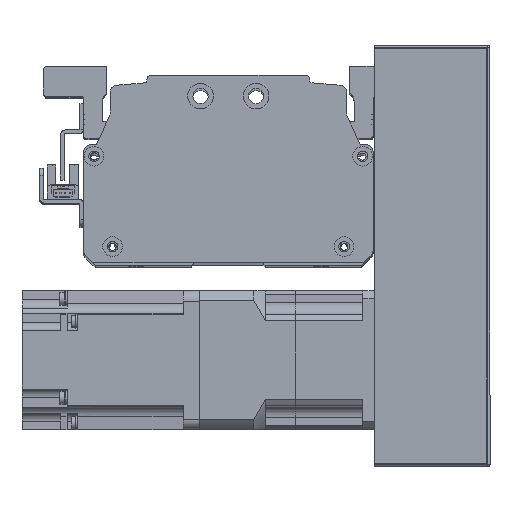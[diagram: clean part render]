
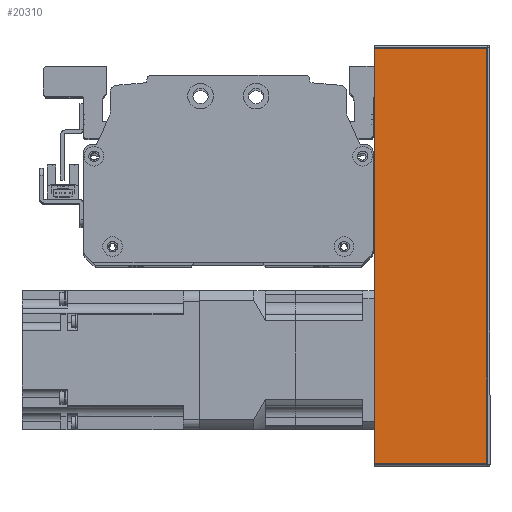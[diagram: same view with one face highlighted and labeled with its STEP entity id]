
A CAD part, top view. The second image highlights one B-rep face of the part: STEP entity #20310.
In plain terms, the highlighted planar face has unit normal (0, 0, 1) as drawn and (0, 1, 0) by its records, which use the part's own axes.
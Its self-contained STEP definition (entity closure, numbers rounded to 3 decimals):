
#568=PLANE('',#22277);
#1775=LINE('',#33039,#3399);
#1789=LINE('',#33084,#3413);
#1793=LINE('',#33106,#3417);
#1812=LINE('',#33169,#3436);
#3399=VECTOR('',#26822,10.);
#3413=VECTOR('',#26870,10.);
#3417=VECTOR('',#26904,10.);
#3436=VECTOR('',#26987,10.);
#5758=FACE_OUTER_BOUND('',#7174,.T.);
#7174=EDGE_LOOP('',(#16960,#16961,#16962,#16963));
#9982=VERTEX_POINT('',#33036);
#9983=VERTEX_POINT('',#33038);
#9996=VERTEX_POINT('',#33079);
#9997=VERTEX_POINT('',#33082);
#12403=EDGE_CURVE('',#9983,#9982,#1775,.T.);
#12427=EDGE_CURVE('',#9996,#9997,#1789,.T.);
#12439=EDGE_CURVE('',#9982,#9996,#1793,.T.);
#12470=EDGE_CURVE('',#9997,#9983,#1812,.T.);
#16960=ORIENTED_EDGE('',*,*,#12427,.T.);
#16961=ORIENTED_EDGE('',*,*,#12470,.T.);
#16962=ORIENTED_EDGE('',*,*,#12403,.T.);
#16963=ORIENTED_EDGE('',*,*,#12439,.T.);
#20310=ADVANCED_FACE('',(#5758),#568,.F.);
#22277=AXIS2_PLACEMENT_3D('',#33168,#26985,#26986);
#26822=DIRECTION('',(-1.,0.,0.));
#26870=DIRECTION('',(1.,0.,0.));
#26904=DIRECTION('',(0.,0.,1.));
#26985=DIRECTION('center_axis',(0.,-1.,0.));
#26986=DIRECTION('ref_axis',(-1.,0.,0.));
#26987=DIRECTION('',(0.,0.,-1.));
#33036=CARTESIAN_POINT('',(-90.,38.,-25.));
#33038=CARTESIAN_POINT('',(90.,38.,-25.));
#33039=CARTESIAN_POINT('',(-91.,38.,-25.));
#33079=CARTESIAN_POINT('',(-90.,38.,24.));
#33082=CARTESIAN_POINT('',(90.,38.,24.));
#33084=CARTESIAN_POINT('',(45.5,38.,24.));
#33106=CARTESIAN_POINT('',(-90.,38.,0.));
#33168=CARTESIAN_POINT('Origin',(91.,38.,0.));
#33169=CARTESIAN_POINT('',(90.,38.,0.));
